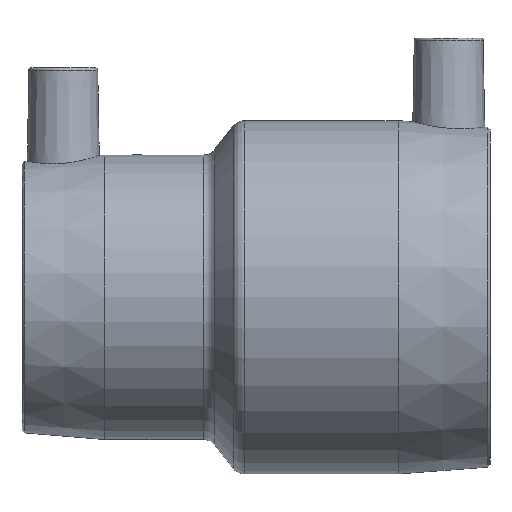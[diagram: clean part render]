
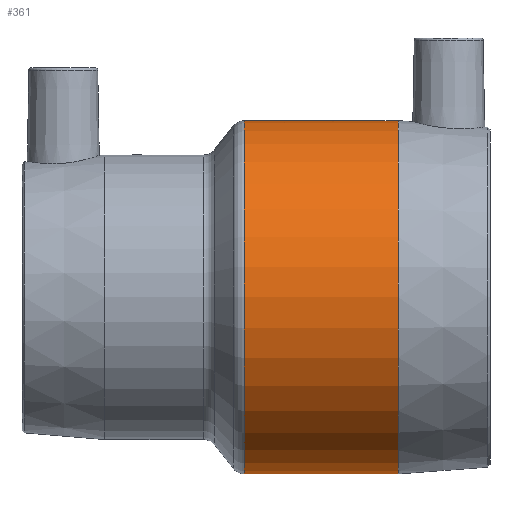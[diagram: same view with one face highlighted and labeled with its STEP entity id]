
A CAD part, front view. The second image highlights one B-rep face of the part: STEP entity #361.
In plain terms, the highlighted cylindrical face has radius 38.5 mm (diameter 77 mm), a full revolution.
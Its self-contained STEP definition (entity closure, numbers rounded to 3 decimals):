
#36=CYLINDRICAL_SURFACE('',#410,38.5);
#48=B_SPLINE_CURVE_WITH_KNOTS('',3,(#628,#629,#630,#631,#632,#633,#634,
#635,#636,#637,#638),.UNSPECIFIED.,.T.,.F.,(1,1,1,1,1,1,1,1,1,1,1,1,1,1,
1),(-0.002,-0.002,-0.001,0.,
0.001,0.002,0.002,0.003,
0.004,0.005,0.005,0.006,
0.007,0.008,0.009),
 .UNSPECIFIED.);
#54=ORIENTED_EDGE('',*,*,#122,.T.);
#55=ORIENTED_EDGE('',*,*,#123,.T.);
#56=ORIENTED_EDGE('',*,*,#119,.T.);
#119=EDGE_CURVE('',#153,#153,#187,.T.);
#122=EDGE_CURVE('',#156,#156,#48,.T.);
#123=EDGE_CURVE('',#157,#157,#189,.T.);
#153=VERTEX_POINT('',#604);
#156=VERTEX_POINT('',#639);
#157=VERTEX_POINT('',#641);
#187=CIRCLE('',#408,38.5);
#189=CIRCLE('',#411,38.5);
#220=EDGE_LOOP('',(#54));
#221=EDGE_LOOP('',(#55));
#222=EDGE_LOOP('',(#56));
#288=FACE_BOUND('',#220,.T.);
#289=FACE_BOUND('',#221,.T.);
#290=FACE_BOUND('',#222,.T.);
#361=ADVANCED_FACE('',(#288,#289,#290),#36,.T.);
#408=AXIS2_PLACEMENT_3D('',#603,#475,#476);
#410=AXIS2_PLACEMENT_3D('',#627,#479,#480);
#411=AXIS2_PLACEMENT_3D('',#640,#481,#482);
#475=DIRECTION('',(-1.,0.,0.));
#476=DIRECTION('',(0.,0.,1.));
#479=DIRECTION('',(-1.,0.,0.));
#480=DIRECTION('',(0.,0.,1.));
#481=DIRECTION('',(1.,0.,0.));
#482=DIRECTION('',(0.,0.,-1.));
#603=CARTESIAN_POINT('',(38.,0.,0.));
#604=CARTESIAN_POINT('',(38.,0.,38.5));
#627=CARTESIAN_POINT('',(-60.,0.,0.));
#628=CARTESIAN_POINT('',(33.783,0.785,38.493));
#629=CARTESIAN_POINT('',(34.108,0.,38.503));
#630=CARTESIAN_POINT('',(33.783,-0.784,38.494));
#631=CARTESIAN_POINT('',(33.001,-1.108,38.484));
#632=CARTESIAN_POINT('',(32.217,-0.784,38.493));
#633=CARTESIAN_POINT('',(31.892,0.,38.503));
#634=CARTESIAN_POINT('',(32.216,0.783,38.494));
#635=CARTESIAN_POINT('',(32.999,1.108,38.484));
#636=CARTESIAN_POINT('',(33.783,0.785,38.493));
#637=CARTESIAN_POINT('',(34.108,0.,38.503));
#638=CARTESIAN_POINT('',(33.783,-0.784,38.494));
#639=CARTESIAN_POINT('',(34.,0.,38.5));
#640=CARTESIAN_POINT('',(4.442,0.,0.));
#641=CARTESIAN_POINT('',(4.442,0.,-38.5));
